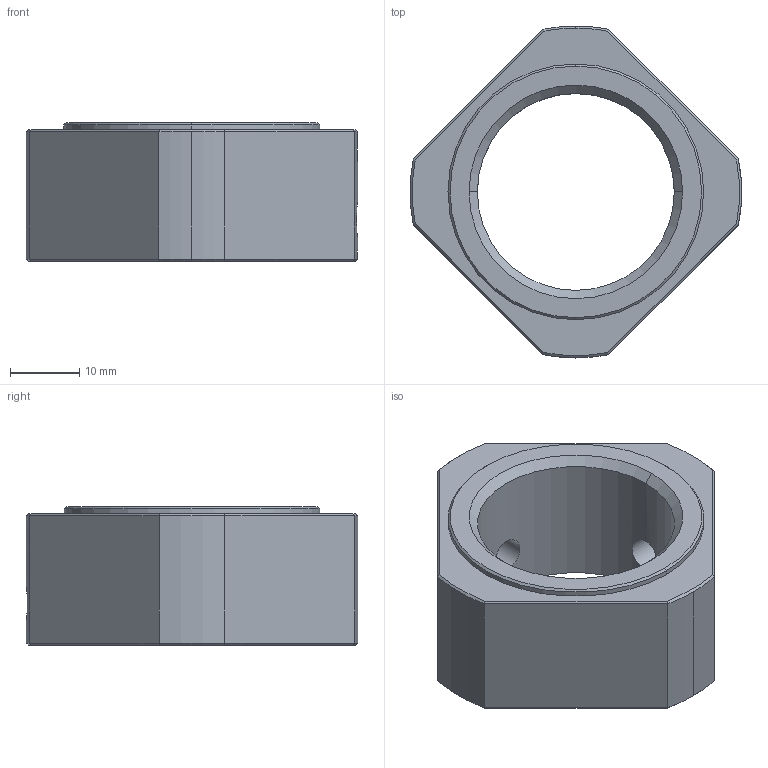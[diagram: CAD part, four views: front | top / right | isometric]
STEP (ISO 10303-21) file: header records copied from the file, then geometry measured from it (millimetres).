
FILE_DESCRIPTION (( 'STEP AP203' ), '1' );
FILE_NAME ('30玛㏕脸碪(家舱篈).STEP', '2013-01-22T02:30:08', ( '' ), ( '' ), 'SwSTEP 2.0', 'SolidWorks 2012', '' );
FILE_SCHEMA (( 'CONFIG_CONTROL_DESIGN' ));
Length unit declared in the file: millimetre
Products named in the file (1): 30鎖固螺帽(模型組態)
Bounding box: 47.95 x 48 x 20 mm (x, y, z)
Volume: 16739.3 mm3; surface area: 6513.2 mm2
Topology: 1 solids, 1 shells, 46 faces, 105 edges, 61 vertices
Faces by surface type: plane 15, cone 14, cylinder 13, bspline 4
Entity records: 1743 total; most frequent: CARTESIAN_POINT 677, ORIENTED_EDGE 210, DIRECTION 192, EDGE_CURVE 105, AXIS2_PLACEMENT_3D 76, VERTEX_POINT 61, EDGE_LOOP 52, FACE_OUTER_BOUND 46
